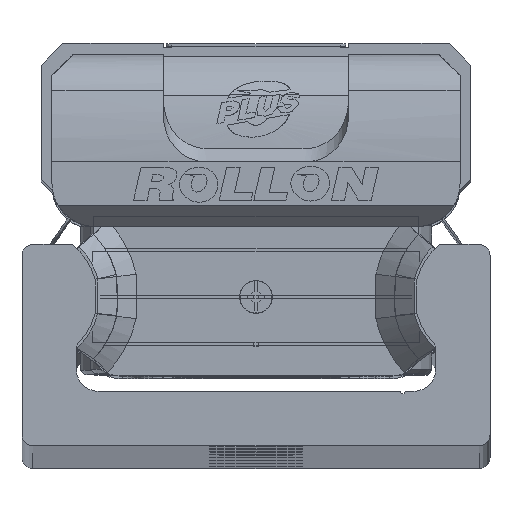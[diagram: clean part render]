
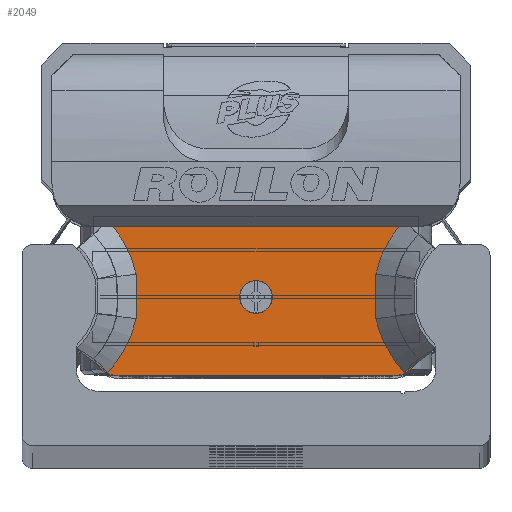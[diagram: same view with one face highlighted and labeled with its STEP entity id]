
A CAD part, top view. The second image highlights one B-rep face of the part: STEP entity #2049.
In plain terms, the highlighted planar face has unit normal (0, 0, 1) as drawn and (0, 0, -1) by its records, which use the part's own axes.
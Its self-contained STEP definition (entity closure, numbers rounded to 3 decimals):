
#2049 = ADVANCED_FACE( '', ( #4264, #4265 ), #4266, .F. );
#4264 = FACE_BOUND( '', #6630, .T. );
#4265 = FACE_OUTER_BOUND( '', #6631, .T. );
#4266 = PLANE( '', #6632 );
#6630 = EDGE_LOOP( '', ( #12202 ) );
#6631 = EDGE_LOOP( '', ( #12203, #12204, #12205, #12206, #12207, #12208, #12209, #12210, #12211, #12212, #12213, #12214 ) );
#6632 = AXIS2_PLACEMENT_3D( '', #12215, #12216, #12217 );
#12202 = ORIENTED_EDGE( '', *, *, #14208, .T. );
#12203 = ORIENTED_EDGE( '', *, *, #12850, .T. );
#12204 = ORIENTED_EDGE( '', *, *, #14449, .F. );
#12205 = ORIENTED_EDGE( '', *, *, #12790, .T. );
#12206 = ORIENTED_EDGE( '', *, *, #13553, .F. );
#12207 = ORIENTED_EDGE( '', *, *, #13713, .T. );
#12208 = ORIENTED_EDGE( '', *, *, #13408, .T. );
#12209 = ORIENTED_EDGE( '', *, *, #13413, .T. );
#12210 = ORIENTED_EDGE( '', *, *, #14772, .T. );
#12211 = ORIENTED_EDGE( '', *, *, #14768, .T. );
#12212 = ORIENTED_EDGE( '', *, *, #14214, .T. );
#12213 = ORIENTED_EDGE( '', *, *, #13261, .T. );
#12214 = ORIENTED_EDGE( '', *, *, #14430, .T. );
#12215 = CARTESIAN_POINT( '', ( 14.9, 7.35, -13.25 ) );
#12216 = DIRECTION( '', ( 0., 0., 1. ) );
#12217 = DIRECTION( '', ( 1., 0., 0. ) );
#12790 = EDGE_CURVE( '', #15206, #15204, #15207, .T. );
#12850 = EDGE_CURVE( '', #15314, #15291, #15315, .T. );
#13261 = EDGE_CURVE( '', #16012, #16010, #16013, .T. );
#13408 = EDGE_CURVE( '', #16256, #16254, #16257, .T. );
#13413 = EDGE_CURVE( '', #16254, #16263, #16265, .T. );
#13553 = EDGE_CURVE( '', #15832, #15204, #16490, .T. );
#13713 = EDGE_CURVE( '', #15832, #16256, #16735, .T. );
#14208 = EDGE_CURVE( '', #17445, #17445, #17446, .T. );
#14214 = EDGE_CURVE( '', #17452, #16012, #17454, .T. );
#14430 = EDGE_CURVE( '', #16010, #15314, #17716, .T. );
#14449 = EDGE_CURVE( '', #15206, #15291, #17737, .T. );
#14768 = EDGE_CURVE( '', #18106, #17452, #18107, .T. );
#14772 = EDGE_CURVE( '', #16263, #18106, #18111, .T. );
#15204 = VERTEX_POINT( '', #18627 );
#15206 = VERTEX_POINT( '', #18630 );
#15207 = LINE( '', #18631, #18632 );
#15291 = VERTEX_POINT( '', #18751 );
#15314 = VERTEX_POINT( '', #18784 );
#15315 = B_SPLINE_CURVE_WITH_KNOTS( '', 1, ( #18785, #18786 ), .UNSPECIFIED., .F., .F., ( 2, 2 ), ( 0., 1. ), .UNSPECIFIED. );
#15832 = VERTEX_POINT( '', #19507 );
#16010 = VERTEX_POINT( '', #19734 );
#16012 = VERTEX_POINT( '', #19737 );
#16013 = B_SPLINE_CURVE_WITH_KNOTS( '', 2, ( #19738, #19739, #19740 ), .UNSPECIFIED., .F., .F., ( 3, 3 ), ( 0., 1. ), .UNSPECIFIED. );
#16254 = VERTEX_POINT( '', #20093 );
#16256 = VERTEX_POINT( '', #20096 );
#16257 = B_SPLINE_CURVE_WITH_KNOTS( '', 2, ( #20097, #20098, #20099, #20100, #20101 ), .UNSPECIFIED., .F., .F., ( 3, 2, 3 ), ( 0., 0.5, 1. ), .UNSPECIFIED. );
#16263 = VERTEX_POINT( '', #20111 );
#16265 = B_SPLINE_CURVE_WITH_KNOTS( '', 2, ( #20114, #20115, #20116 ), .UNSPECIFIED., .F., .F., ( 3, 3 ), ( 0., 1. ), .UNSPECIFIED. );
#16490 = CIRCLE( '', #20513, 2.5 );
#16735 = B_SPLINE_CURVE_WITH_KNOTS( '', 1, ( #20878, #20879 ), .UNSPECIFIED., .F., .F., ( 2, 2 ), ( 0., 1. ), .UNSPECIFIED. );
#17445 = VERTEX_POINT( '', #21905 );
#17446 = CIRCLE( '', #21906, 1.5 );
#17452 = VERTEX_POINT( '', #21912 );
#17454 = B_SPLINE_CURVE_WITH_KNOTS( '', 2, ( #21917, #21918, #21919, #21920, #21921 ), .UNSPECIFIED., .F., .F., ( 3, 2, 3 ), ( 0.133, 0.5, 1. ), .UNSPECIFIED. );
#17716 = B_SPLINE_CURVE_WITH_KNOTS( '', 2, ( #22284, #22285, #22286, #22287, #22288 ), .UNSPECIFIED., .F., .F., ( 3, 2, 3 ), ( 0., 0.5, 1. ), .UNSPECIFIED. );
#17737 = CIRCLE( '', #22317, 2.5 );
#18106 = VERTEX_POINT( '', #22794 );
#18107 = LINE( '', #22795, #22796 );
#18111 = B_SPLINE_CURVE_WITH_KNOTS( '', 2, ( #22804, #22805, #22806, #22807, #22808 ), .UNSPECIFIED., .F., .F., ( 3, 2, 3 ), ( 0., 0.5, 0.868 ), .UNSPECIFIED. );
#18627 = CARTESIAN_POINT( '', ( -12.58, -7.3, -13.25 ) );
#18630 = CARTESIAN_POINT( '', ( 12.58, -7.3, -13.25 ) );
#18631 = CARTESIAN_POINT( '', ( 12.58, -7.3, -13.25 ) );
#18632 = VECTOR( '', #23266, 1000. );
#18751 = CARTESIAN_POINT( '', ( 14.906, -5.717, -13.25 ) );
#18784 = CARTESIAN_POINT( '', ( 13.628, -6.965, -13.25 ) );
#18785 = CARTESIAN_POINT( '', ( 13.628, -6.965, -13.25 ) );
#18786 = CARTESIAN_POINT( '', ( 14.9, -5.728, -13.25 ) );
#19507 = CARTESIAN_POINT( '', ( -14.904, -5.718, -13.25 ) );
#19734 = CARTESIAN_POINT( '', ( 11.012, -2.045, -13.25 ) );
#19737 = CARTESIAN_POINT( '', ( 11.012, 2.045, -13.25 ) );
#19738 = CARTESIAN_POINT( '', ( 11.012, 2.045, -13.25 ) );
#19739 = CARTESIAN_POINT( '', ( 10.888, 0., -13.25 ) );
#19740 = CARTESIAN_POINT( '', ( 11.012, -2.045, -13.25 ) );
#20093 = CARTESIAN_POINT( '', ( -11.012, -2.045, -13.25 ) );
#20096 = CARTESIAN_POINT( '', ( -13.628, -6.965, -13.25 ) );
#20097 = CARTESIAN_POINT( '', ( -13.628, -6.965, -13.25 ) );
#20098 = CARTESIAN_POINT( '', ( -12.638, -5.946, -13.25 ) );
#20099 = CARTESIAN_POINT( '', ( -11.97, -4.691, -13.25 ) );
#20100 = CARTESIAN_POINT( '', ( -11.303, -3.437, -13.25 ) );
#20101 = CARTESIAN_POINT( '', ( -11.012, -2.045, -13.25 ) );
#20111 = CARTESIAN_POINT( '', ( -11.012, 2.045, -13.25 ) );
#20114 = CARTESIAN_POINT( '', ( -11.012, -2.045, -13.25 ) );
#20115 = CARTESIAN_POINT( '', ( -10.888, 0., -13.25 ) );
#20116 = CARTESIAN_POINT( '', ( -11.012, 2.045, -13.25 ) );
#20513 = AXIS2_PLACEMENT_3D( '', #24294, #24295, #24296 );
#20878 = CARTESIAN_POINT( '', ( -14.915, -5.713, -13.25 ) );
#20879 = CARTESIAN_POINT( '', ( -13.628, -6.965, -13.25 ) );
#21905 = CARTESIAN_POINT( '', ( 1.5, -0.05, -13.25 ) );
#21906 = AXIS2_PLACEMENT_3D( '', #25096, #25097, #25098 );
#21912 = CARTESIAN_POINT( '', ( 13.12, 6.4, -13.25 ) );
#21917 = CARTESIAN_POINT( '', ( 13.119, 6.4, -13.25 ) );
#21918 = CARTESIAN_POINT( '', ( 12.459, 5.608, -13.25 ) );
#21919 = CARTESIAN_POINT( '', ( 11.968, 4.684, -13.25 ) );
#21920 = CARTESIAN_POINT( '', ( 11.301, 3.427, -13.25 ) );
#21921 = CARTESIAN_POINT( '', ( 11.012, 2.045, -13.25 ) );
#22284 = CARTESIAN_POINT( '', ( 11.012, -2.045, -13.25 ) );
#22285 = CARTESIAN_POINT( '', ( 11.301, -3.43, -13.25 ) );
#22286 = CARTESIAN_POINT( '', ( 11.972, -4.69, -13.25 ) );
#22287 = CARTESIAN_POINT( '', ( 12.642, -5.95, -13.25 ) );
#22288 = CARTESIAN_POINT( '', ( 13.628, -6.965, -13.25 ) );
#22317 = AXIS2_PLACEMENT_3D( '', #25335, #25336, #25337 );
#22794 = CARTESIAN_POINT( '', ( -13.119, 6.4, -13.25 ) );
#22795 = CARTESIAN_POINT( '', ( 14.9, 6.4, -13.25 ) );
#22796 = VECTOR( '', #25602, 1000. );
#22804 = CARTESIAN_POINT( '', ( -11.012, 2.045, -13.25 ) );
#22805 = CARTESIAN_POINT( '', ( -11.302, 3.432, -13.25 ) );
#22806 = CARTESIAN_POINT( '', ( -11.967, 4.685, -13.25 ) );
#22807 = CARTESIAN_POINT( '', ( -12.456, 5.606, -13.25 ) );
#22808 = CARTESIAN_POINT( '', ( -13.119, 6.4, -13.25 ) );
#23266 = DIRECTION( '', ( -1., 0., 0. ) );
#24294 = CARTESIAN_POINT( '', ( -12.58, -4.8, -13.25 ) );
#24295 = DIRECTION( '', ( 0., 0., 1. ) );
#24296 = DIRECTION( '', ( 1., 0., 0. ) );
#25096 = CARTESIAN_POINT( '', ( 0., -0.05, -13.25 ) );
#25097 = DIRECTION( '', ( 0., 0., 1. ) );
#25098 = DIRECTION( '', ( 1., 0., 0. ) );
#25335 = CARTESIAN_POINT( '', ( 12.58, -4.8, -13.25 ) );
#25336 = DIRECTION( '', ( 0., 0., 1. ) );
#25337 = DIRECTION( '', ( 1., 0., 0. ) );
#25602 = DIRECTION( '', ( 1., 0., 0. ) );
